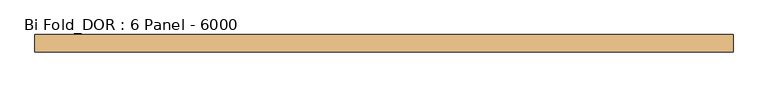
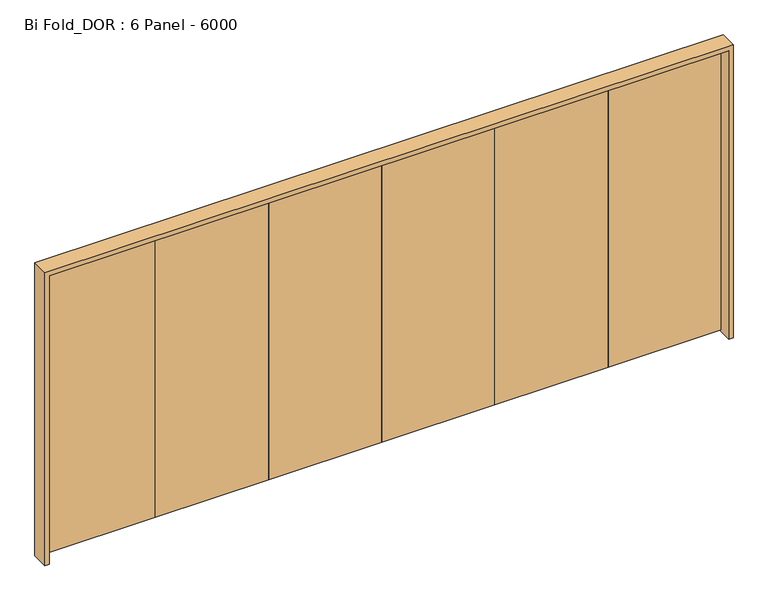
"""IFC4 building model written with IfcOpenShell, lengths in millimetres: door geometry, Bi Fold_DOR : 6 Panel - 6000."""

from ifc_helpers import new_model, si_unit, frame, origin, place, context, project, spatial, polyline, outline, extrude, source, transform, mapped, element, save


def bi_fold_dor_6_panel_6000_e20a34a7(model_context):
    return source(origin(), model_context, "Body", "SweptSolid", [
        extrude(outline(polyline([(2960.0, 35.0), (1973.3333333, 35.0), (1973.3333333, 75.0), (2960.0, 75.0), (2960.0, 35.0)])), frame((0.0, 0.0, 20.0), z_axis=(0.0, 0.0, 1.0), x_axis=(1.0, 0.0, 0.0)), (0.0, 0.0, 1.0), 2640.0),
        extrude(outline(polyline([(1973.3333333, 35.0), (986.6666667, 35.0), (986.6666667, 75.0), (1973.3333333, 75.0), (1973.3333333, 35.0)])), frame((0.0, 0.0, 20.0), z_axis=(0.0, 0.0, 1.0), x_axis=(1.0, 0.0, 0.0)), (0.0, 0.0, 1.0), 2640.0),
        extrude(outline(polyline([(986.6666667, 35.0), (0.0, 35.0), (0.0, 75.0), (986.6666667, 75.0), (986.6666667, 35.0)])), frame((0.0, 0.0, 20.0), z_axis=(0.0, 0.0, 1.0), x_axis=(1.0, 0.0, 0.0)), (0.0, 0.0, 1.0), 2640.0),
        extrude(outline(polyline([(0.0, 35.0), (-986.6666667, 35.0), (-986.6666667, 75.0), (0.0, 75.0), (0.0, 35.0)])), frame((0.0, 0.0, 20.0), z_axis=(0.0, 0.0, 1.0), x_axis=(1.0, 0.0, 0.0)), (0.0, 0.0, 1.0), 2640.0),
        extrude(outline(polyline([(-986.6666667, 35.0), (-1973.3333333, 35.0), (-1973.3333333, 75.0), (-986.6666667, 75.0), (-986.6666667, 35.0)])), frame((0.0, 0.0, 20.0), z_axis=(0.0, 0.0, 1.0), x_axis=(1.0, 0.0, 0.0)), (0.0, 0.0, 1.0), 2640.0),
        extrude(outline(polyline([(-1973.3333333, 35.0), (-2960.0, 35.0), (-2960.0, 75.0), (-1973.3333333, 75.0), (-1973.3333333, 35.0)])), frame((0.0, 0.0, 20.0), z_axis=(0.0, 0.0, 1.0), x_axis=(1.0, 0.0, 0.0)), (0.0, 0.0, 1.0), 2640.0),
        extrude(outline(polyline([(0.0, 2960.0), (0.0, 3000.0), (2700.0, 3000.0), (2700.0, -3000.0), (0.0, -3000.0), (0.0, -2960.0), (2660.0, -2960.0), (2660.0, 2960.0), (0.0, 2960.0)])), frame((0.0, -75.0, 0.0), z_axis=(0.0, 1.0, 0.0), x_axis=(0.0, 0.0, 1.0)), (0.0, 0.0, 1.0), 150.0),
    ])


if __name__ == "__main__":
    model = new_model("IFC4")
    model_context = context("Model", 3, world=origin())
    ifc_project = project(units=[si_unit("LENGTHUNIT", "METRE", prefix="MILLI")], contexts=[model_context])
    site = spatial("IfcSite", under=ifc_project)
    building = spatial("IfcBuilding", under=site)
    placement = place(None, origin())
    bi_fold_dor_6_panel_6000_shape = bi_fold_dor_6_panel_6000_e20a34a7(model_context)
    element("IfcDoor", 1, ObjectType="Bi Fold_DOR : 6 Panel - 6000", at=placement, inside=building, context=model_context, shape_type="MappedRepresentation", body=[
        mapped(bi_fold_dor_6_panel_6000_shape, transform((0.0, 0.0, 0.0), x_axis=(1.0, 0.0, 0.0), y_axis=(0.0, 1.0, 0.0), z_axis=(0.0, 0.0, 1.0))),
    ])
    save(model, "model.ifc")
